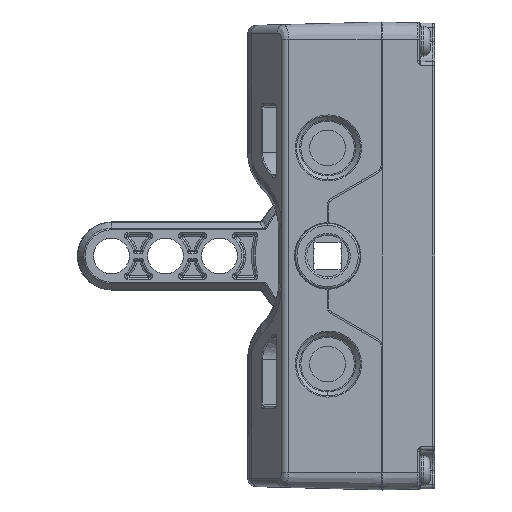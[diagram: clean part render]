
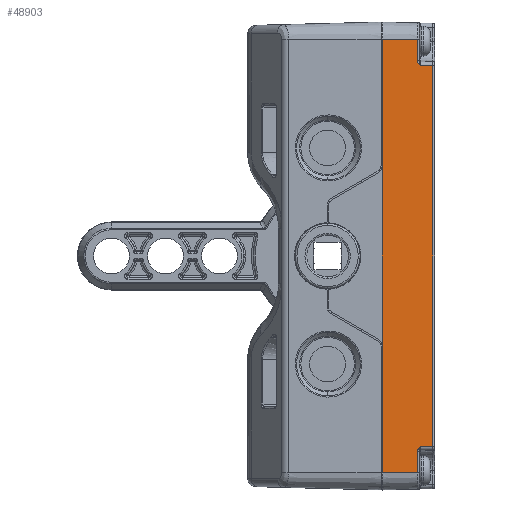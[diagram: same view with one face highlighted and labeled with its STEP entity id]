
A CAD part, left-side view. The second image highlights one B-rep face of the part: STEP entity #48903.
In plain terms, the highlighted planar face has unit normal (-1, -0.026, 0).
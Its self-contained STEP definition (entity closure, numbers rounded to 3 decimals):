
#172 = VERTEX_POINT ( 'NONE', #62603 ) ;
#346 = CARTESIAN_POINT ( 'NONE',  ( -12.431, -1.42, -22.381 ) ) ;
#2213 = FACE_OUTER_BOUND ( 'NONE', #77244, .T. ) ;
#2791 = CARTESIAN_POINT ( 'NONE',  ( -12.55, 3.125, 0. ) ) ;
#3680 = LINE ( 'NONE', #30100, #32422 ) ;
#4651 = CARTESIAN_POINT ( 'NONE',  ( -12.393, -2.855, -22.344 ) ) ;
#8415 = B_SPLINE_CURVE_WITH_KNOTS ( 'NONE', 3,
 ( #48419, #20312, #47555, #40667, #14248, #67104 ),
 .UNSPECIFIED., .F., .F.,
 ( 4, 2, 4 ),
 ( 0., 0., 0.001 ),
 .UNSPECIFIED. ) ;
#11979 = CARTESIAN_POINT ( 'NONE',  ( -12.55, 3.125, -25.5 ) ) ;
#12108 = CARTESIAN_POINT ( 'NONE',  ( -12.535, 2.537, 22.485 ) ) ;
#14248 = CARTESIAN_POINT ( 'NONE',  ( -12.441, -1.03, 22.88 ) ) ;
#14343 = EDGE_CURVE ( 'NONE', #37969, #47381, #68653, .T. ) ;
#15607 = LINE ( 'NONE', #54618, #78986 ) ;
#15629 = ORIENTED_EDGE ( 'NONE', *, *, #18891, .F. ) ;
#16163 = LINE ( 'NONE', #30013, #22165 ) ;
#16736 = VECTOR ( 'NONE', #41544, 1000. ) ;
#17665 = DIRECTION ( 'NONE',  ( -1., -0.026, 0. ) ) ;
#17910 = CARTESIAN_POINT ( 'NONE',  ( -12.441, -1.03, 25.5 ) ) ;
#18891 = EDGE_CURVE ( 'NONE', #63925, #37969, #82687, .T. ) ;
#20312 = CARTESIAN_POINT ( 'NONE',  ( -12.434, -1.323, 22.465 ) ) ;
#21200 = ORIENTED_EDGE ( 'NONE', *, *, #81028, .T. ) ;
#22165 = VECTOR ( 'NONE', #22222, 1000. ) ;
#22222 = DIRECTION ( 'NONE',  ( 0.026, -0.999, 0.026 ) ) ;
#22796 = VERTEX_POINT ( 'NONE', #74871 ) ;
#23357 = CARTESIAN_POINT ( 'NONE',  ( -12.55, 3.125, 0. ) ) ;
#23668 = VERTEX_POINT ( 'NONE', #4651 ) ;
#23992 = CARTESIAN_POINT ( 'NONE',  ( -12.55, 3.125, 25.5 ) ) ;
#24328 = VECTOR ( 'NONE', #34676, 1000. ) ;
#24843 = CARTESIAN_POINT ( 'NONE',  ( -12.441, -1.03, -23.008 ) ) ;
#25189 = DIRECTION ( 'NONE',  ( -0.026, 1., 0. ) ) ;
#25396 = LINE ( 'NONE', #11979, #37026 ) ;
#25517 = DIRECTION ( 'NONE',  ( -0.026, 0.999, 0.026 ) ) ;
#25973 = CARTESIAN_POINT ( 'NONE',  ( -12.55, 3.125, -10.59 ) ) ;
#26286 = ORIENTED_EDGE ( 'NONE', *, *, #66293, .F. ) ;
#28105 = CARTESIAN_POINT ( 'NONE',  ( -12.441, -1.03, 0. ) ) ;
#29019 = DIRECTION ( 'NONE',  ( 0.026, -1., 0. ) ) ;
#30013 = CARTESIAN_POINT ( 'NONE',  ( -12.535, 2.537, -22.485 ) ) ;
#30100 = CARTESIAN_POINT ( 'NONE',  ( -12.55, 3.125, 0. ) ) ;
#30500 = DIRECTION ( 'NONE',  ( 0., 0., 1. ) ) ;
#32344 = VECTOR ( 'NONE', #25517, 1000. ) ;
#32422 = VECTOR ( 'NONE', #85462, 1000. ) ;
#33206 = CARTESIAN_POINT ( 'NONE',  ( -12.441, -1.03, -25.5 ) ) ;
#33822 = ORIENTED_EDGE ( 'NONE', *, *, #43343, .T. ) ;
#34676 = DIRECTION ( 'NONE',  ( 0., 0., 1. ) ) ;
#34697 = DIRECTION ( 'NONE',  ( 0., 0., 1. ) ) ;
#34708 = CARTESIAN_POINT ( 'NONE',  ( -12.55, 3.125, -25.5 ) ) ;
#36723 = ORIENTED_EDGE ( 'NONE', *, *, #50670, .T. ) ;
#37026 = VECTOR ( 'NONE', #38392, 1000. ) ;
#37833 = CARTESIAN_POINT ( 'NONE',  ( -12.433, -1.324, -22.464 ) ) ;
#37969 = VERTEX_POINT ( 'NONE', #81979 ) ;
#38392 = DIRECTION ( 'NONE',  ( 0.026, -1., 0. ) ) ;
#38772 = CARTESIAN_POINT ( 'NONE',  ( -12.431, -1.42, 22.381 ) ) ;
#39768 = B_SPLINE_CURVE_WITH_KNOTS ( 'NONE', 3,
 ( #24843, #58214, #83295, #78102, #37833, #51279 ),
 .UNSPECIFIED., .F., .F.,
 ( 4, 2, 4 ),
 ( 0., 0., 0.001 ),
 .UNSPECIFIED. ) ;
#40667 = CARTESIAN_POINT ( 'NONE',  ( -12.44, -1.08, 22.758 ) ) ;
#41544 = DIRECTION ( 'NONE',  ( 0., 0., 1. ) ) ;
#42557 = ORIENTED_EDGE ( 'NONE', *, *, #48544, .T. ) ;
#43343 = EDGE_CURVE ( 'NONE', #52655, #76032, #78351, .T. ) ;
#44869 = ORIENTED_EDGE ( 'NONE', *, *, #69719, .T. ) ;
#45328 = ORIENTED_EDGE ( 'NONE', *, *, #61605, .T. ) ;
#47312 = EDGE_CURVE ( 'NONE', #22796, #82825, #39768, .T. ) ;
#47359 = VERTEX_POINT ( 'NONE', #17910 ) ;
#47381 = VERTEX_POINT ( 'NONE', #23992 ) ;
#47555 = CARTESIAN_POINT ( 'NONE',  ( -12.436, -1.227, 22.551 ) ) ;
#48394 = ORIENTED_EDGE ( 'NONE', *, *, #50356, .T. ) ;
#48419 = CARTESIAN_POINT ( 'NONE',  ( -12.431, -1.42, 22.381 ) ) ;
#48544 = EDGE_CURVE ( 'NONE', #82825, #23668, #16163, .T. ) ;
#48903 = ADVANCED_FACE ( 'NONE', ( #2213 ), #57102, .T. ) ;
#50356 = EDGE_CURVE ( 'NONE', #66987, #22796, #74462, .T. ) ;
#50670 = EDGE_CURVE ( 'NONE', #23668, #52655, #15607, .T. ) ;
#51279 = CARTESIAN_POINT ( 'NONE',  ( -12.431, -1.42, -22.381 ) ) ;
#52046 = CARTESIAN_POINT ( 'NONE',  ( -12.441, -1.03, 0. ) ) ;
#52655 = VERTEX_POINT ( 'NONE', #81082 ) ;
#53341 = CARTESIAN_POINT ( 'NONE',  ( -12.55, 3.125, 25.5 ) ) ;
#54516 = EDGE_CURVE ( 'NONE', #47359, #47381, #85345, .T. ) ;
#54618 = CARTESIAN_POINT ( 'NONE',  ( -12.393, -2.855, 0. ) ) ;
#54636 = CARTESIAN_POINT ( 'NONE',  ( -12.55, 3.125, 0. ) ) ;
#57102 = PLANE ( 'NONE',  #80298 ) ;
#57438 = VECTOR ( 'NONE', #25189, 1000. ) ;
#58214 = CARTESIAN_POINT ( 'NONE',  ( -12.441, -1.03, -22.88 ) ) ;
#61605 = EDGE_CURVE ( 'NONE', #172, #47359, #84932, .T. ) ;
#62603 = CARTESIAN_POINT ( 'NONE',  ( -12.441, -1.03, 23.008 ) ) ;
#63925 = VERTEX_POINT ( 'NONE', #25973 ) ;
#66293 = EDGE_CURVE ( 'NONE', #77599, #63925, #3680, .T. ) ;
#66987 = VERTEX_POINT ( 'NONE', #33206 ) ;
#67104 = CARTESIAN_POINT ( 'NONE',  ( -12.441, -1.03, 23.008 ) ) ;
#67611 = VECTOR ( 'NONE', #30500, 1000. ) ;
#68653 = LINE ( 'NONE', #2791, #67611 ) ;
#69719 = EDGE_CURVE ( 'NONE', #77599, #66987, #25396, .T. ) ;
#74462 = LINE ( 'NONE', #28105, #16736 ) ;
#74871 = CARTESIAN_POINT ( 'NONE',  ( -12.441, -1.03, -23.008 ) ) ;
#75937 = ORIENTED_EDGE ( 'NONE', *, *, #47312, .T. ) ;
#76032 = VERTEX_POINT ( 'NONE', #38772 ) ;
#77244 = EDGE_LOOP ( 'NONE', ( #42557, #36723, #33822, #21200, #45328, #84373, #80710, #15629, #26286, #44869, #48394, #75937 ) ) ;
#77599 = VERTEX_POINT ( 'NONE', #34708 ) ;
#78102 = CARTESIAN_POINT ( 'NONE',  ( -12.436, -1.227, -22.551 ) ) ;
#78351 = LINE ( 'NONE', #12108, #32344 ) ;
#78887 = DIRECTION ( 'NONE',  ( 0., 0., 1. ) ) ;
#78986 = VECTOR ( 'NONE', #34697, 1000. ) ;
#80298 = AXIS2_PLACEMENT_3D ( 'NONE', #54636, #17665, #29019 ) ;
#80710 = ORIENTED_EDGE ( 'NONE', *, *, #14343, .F. ) ;
#81028 = EDGE_CURVE ( 'NONE', #76032, #172, #8415, .T. ) ;
#81082 = CARTESIAN_POINT ( 'NONE',  ( -12.393, -2.855, 22.344 ) ) ;
#81979 = CARTESIAN_POINT ( 'NONE',  ( -12.55, 3.125, 10.59 ) ) ;
#82687 = LINE ( 'NONE', #23357, #24328 ) ;
#82825 = VERTEX_POINT ( 'NONE', #346 ) ;
#83295 = CARTESIAN_POINT ( 'NONE',  ( -12.44, -1.08, -22.758 ) ) ;
#83949 = VECTOR ( 'NONE', #78887, 1000. ) ;
#84373 = ORIENTED_EDGE ( 'NONE', *, *, #54516, .T. ) ;
#84932 = LINE ( 'NONE', #52046, #83949 ) ;
#85345 = LINE ( 'NONE', #53341, #57438 ) ;
#85462 = DIRECTION ( 'NONE',  ( 0., 0., 1. ) ) ;
